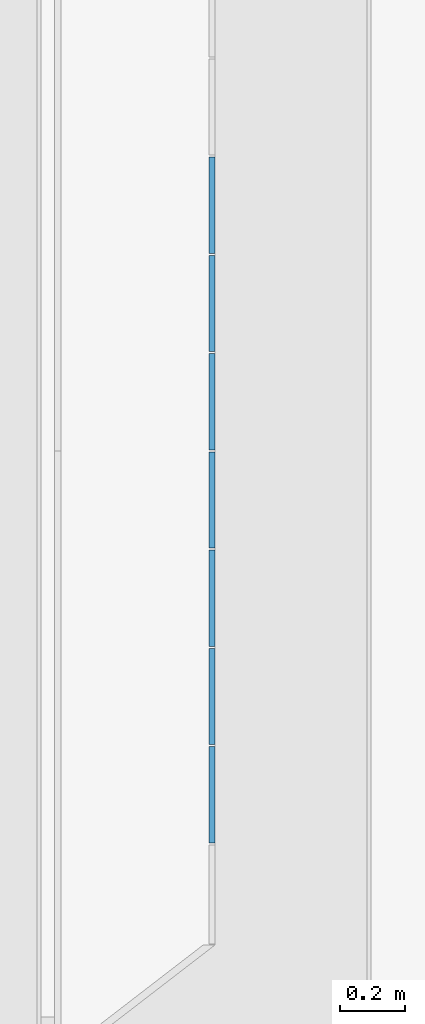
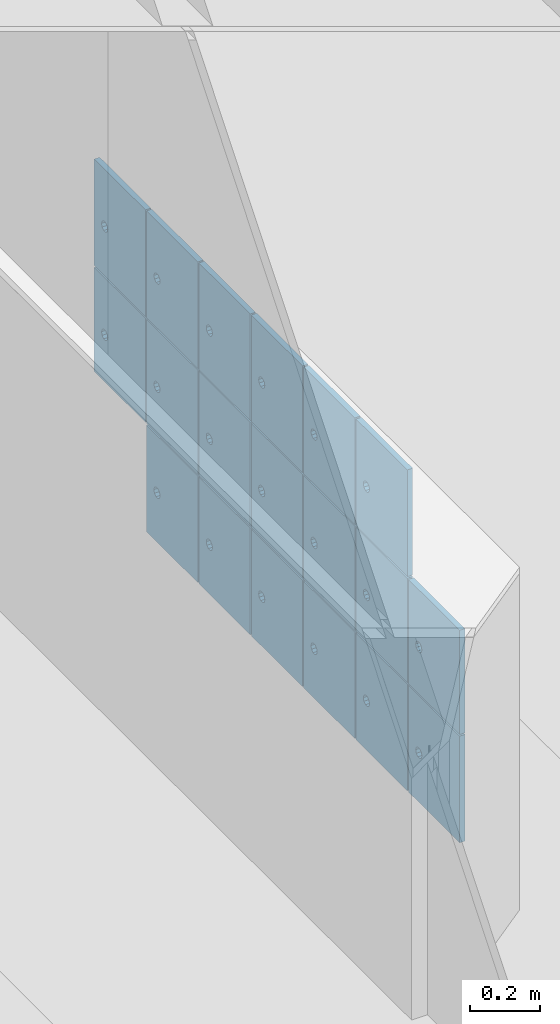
# One storey, part 132 of 347: 19 building element parts, 1 element without a shape of its own.
"""IFC2X3 building model written with IfcOpenShell, lengths in millimetres."""

import ifcopenshell
import ifcopenshell.guid

model = None  # the IFC model being written
_history = None  # IfcOwnerHistory: only IFC2X3 demands one
_inside = {}  # id of a spatial element -> (the spatial element, [elements in it])
_under = {}  # id of a project, library or spatial element -> (it, [spatial elements below it])
_declared = {}  # id of a project -> (the project, [libraries it declares])
_typed = {}  # id of a type object -> (the type object, [elements of that type])
_made_of = {}  # id of a material, layer set ... -> (it, [elements and type objects made of it])


def new_model(schema):
    """Start an empty IFC model of exactly this schema.

    Asked for "IFC4X3", IfcOpenShell would pick the latest addendum, in which some entities
    have other attributes; the version numbers below select the first issue.
    IFC2X3 requires an IfcOwnerHistory on every rooted entity: one is made here for all.
    """
    global model, _history
    if schema == "IFC4X3":
        model = ifcopenshell.file(schema_version=(4, 3, 0, 0))
    else:
        model = ifcopenshell.file(schema=schema)
    _inside.clear()
    _under.clear()
    _declared.clear()
    _typed.clear()
    _made_of.clear()
    _history = None
    if model.schema == "IFC2X3":
        org = make("IfcOrganization", Name="unknown")
        user = make(
            "IfcPersonAndOrganization",
            ThePerson=make("IfcPerson", FamilyName="unknown"),
            TheOrganization=org,
        )
        app = make(
            "IfcApplication",
            ApplicationDeveloper=org,
            Version="unknown",
            ApplicationFullName="unknown",
            ApplicationIdentifier="unknown",
        )
        _history = make(
            "IfcOwnerHistory",
            OwningUser=user,
            OwningApplication=app,
            ChangeAction="ADDED",
            CreationDate=0,
        )
    return model


def make(cls, **values):
    """One entity of the class cls with the attributes given. An attribute that is None is left unset."""
    return model.create_entity(
        cls, **{name: value for name, value in values.items() if value is not None}
    )


def entity(cls, *values):
    """Any entity or typed value of the class cls, its attributes in the order of the schema. None: left unset."""
    e = model.create_entity(cls)
    for i, value in enumerate(values):
        if value is not None:
            e[i] = value
    return e


def rooted(cls, **values):
    """An entity with a GlobalId (a new one), such as an element, a storey or a relation."""
    return make(cls, GlobalId=ifcopenshell.guid.new(), OwnerHistory=_history, **values)


def si_unit(unit_type, name, prefix=None):
    """IfcSIUnit, for example si_unit("LENGTHUNIT", "METRE", prefix="MILLI")."""
    return make("IfcSIUnit", UnitType=unit_type, Prefix=prefix, Name=name)


def converted_unit(unit_type, name, factor, base, dimensions=None, offset=None):
    """IfcConversionBasedUnit, such as the inch: factor (a typed value) times the base unit."""
    return make(
        "IfcConversionBasedUnit"
        if offset is None
        else "IfcConversionBasedUnitWithOffset",
        ConversionOffset=offset,
        Dimensions=None
        if dimensions is None
        else entity("IfcDimensionalExponents", *dimensions),
        UnitType=unit_type,
        Name=name,
        ConversionFactor=make(
            "IfcMeasureWithUnit", ValueComponent=factor, UnitComponent=base
        ),
    )


def derived_unit(unit_type, elements):
    """IfcDerivedUnit: a product of units, each with its exponent."""
    return make(
        "IfcDerivedUnit",
        Elements=[
            make("IfcDerivedUnitElement", Unit=unit, Exponent=power)
            for unit, power in elements
        ],
        UnitType=unit_type,
    )


def money_unit(currency):
    """IfcMonetaryUnit."""
    return make("IfcMonetaryUnit", Currency=currency)


def assignment(units):
    """IfcUnitAssignment: the units of a project."""
    return None if units is None else make("IfcUnitAssignment", Units=units)


def point(xyz):
    """IfcCartesianPoint."""
    return None if xyz is None else make("IfcCartesianPoint", Coordinates=xyz)


def direction(xyz):
    """IfcDirection."""
    return None if xyz is None else make("IfcDirection", DirectionRatios=xyz)


def frame(location, z_axis=None, x_axis=None):
    """IfcAxis2Placement3D, a coordinate frame: its origin and axes. An axis left out is left unset."""
    return make(
        "IfcAxis2Placement3D",
        Location=point(location),
        Axis=direction(z_axis),
        RefDirection=direction(x_axis),
    )


def origin_with_axes():
    """The frame at (0, 0, 0) with the z axis (0, 0, 1) and the x axis (1, 0, 0) written out."""
    return frame((0.0, 0.0, 0.0), z_axis=(0.0, 0.0, 1.0), x_axis=(1.0, 0.0, 0.0))


def place(relative_to, where):
    """IfcLocalPlacement: puts the frame where relative to a parent placement (None: the world)."""
    return make(
        "IfcLocalPlacement", PlacementRelTo=relative_to, RelativePlacement=where
    )


def context(
    kind, dimensions, precision=None, world=None, true_north=None, identifier=None
):
    """IfcGeometricRepresentationContext, for example the 3D "Model" context."""
    return make(
        "IfcGeometricRepresentationContext",
        ContextIdentifier=identifier,
        ContextType=kind,
        CoordinateSpaceDimension=dimensions,
        Precision=precision,
        WorldCoordinateSystem=world,
        TrueNorth=true_north,
    )


def subcontext(parent, identifier, kind, view, scale=None):
    """IfcGeometricRepresentationSubContext, for example "Body" below "Model"."""
    return make(
        "IfcGeometricRepresentationSubContext",
        ContextIdentifier=identifier,
        ContextType=kind,
        ParentContext=parent,
        TargetScale=scale,
        TargetView=view,
    )


def project(units=None, contexts=None):
    """IfcProject with its units and contexts."""
    return rooted(
        "IfcProject",
        Name="project",
        RepresentationContexts=contexts,
        UnitsInContext=assignment(units),
    )


def spatial(cls, under=None, at=None, **own):
    """A site, building, storey or space (cls), placed at a placement, below another one or the project."""
    s = rooted(cls, ObjectPlacement=at, **own)
    if under is not None:
        _under.setdefault(under.id(), (under, []))[1].append(s)
    return s


def faces_of(points, faces, orient=None, outer=None):
    """IfcFace entities. A face is a list of loops; a loop is a list of indices into points, from 0.

    orient and outer hold one flag for each loop. By default every Orientation is true, the
    first loop of a face is its IfcFaceOuterBound and the others are IfcFaceBound.
    """
    made = []
    for i, loops in enumerate(faces):
        bounds = []
        for j, loop in enumerate(loops):
            is_outer = j == 0 if outer is None else outer[i][j]
            bounds.append(
                make(
                    "IfcFaceOuterBound" if is_outer else "IfcFaceBound",
                    Bound=make("IfcPolyLoop", Polygon=[points[k] for k in loop]),
                    Orientation=True if orient is None else orient[i][j],
                )
            )
        made.append(make("IfcFace", Bounds=bounds))
    return made


def faceted_brep(points, faces, orient=None, outer=None, voids=None):
    """IfcFacetedBrep: a solid bounded by flat faces; with voids (closed shells), ...WithVoids."""
    shared = [point(p) for p in points]
    hull = make("IfcClosedShell", CfsFaces=faces_of(shared, faces, orient, outer))
    if voids is None:
        return make("IfcFacetedBrep", Outer=hull)
    return make(
        "IfcFacetedBrepWithVoids",
        Outer=hull,
        Voids=[
            make(cls, CfsFaces=faces_of(shared, fs, o, b)) for cls, fs, o, b in voids
        ],
    )


def shape(context_of_items, identifier, shape_type, items):
    """IfcShapeRepresentation: the items that make up one representation, for example the "Body"."""
    return make(
        "IfcShapeRepresentation",
        ContextOfItems=context_of_items,
        RepresentationIdentifier=identifier,
        RepresentationType=shape_type,
        Items=items,
    )


def material(Name=None, Category=None):
    """IfcMaterial."""
    return make("IfcMaterial", Name=Name, Category=Category)


def made_of(thing, what):
    """Note that an element or type object is made of a material, layer set ...; save() writes the relation."""
    if what is not None:
        _made_of.setdefault(what.id(), (what, []))[1].append(thing)
    return thing


def type_object(cls, material=None, **own):
    """A type object (cls), such as IfcWallType, which elements share."""
    return made_of(rooted(cls, **own), material)


def element(
    cls,
    number,
    at=None,
    inside=None,
    cuts=None,
    type_object=None,
    material=None,
    context=None,
    identifier="Body",
    shape_type=None,
    held_by="IfcProductDefinitionShape",
    body=None,
    shapes=None,
    **own,
):
    """One element of the class cls, such as IfcWall. Its Tag is "e" and its number.

    at: its placement. inside: the storey or other place that contains it. cuts: it is an
    opening in that element (IfcRelVoidsElement). A single representation is given by context,
    identifier, shape_type and body (its items); several are given by shapes. held_by: the class
    of the entity that holds the representations. save() writes the other relations.
    """
    e = rooted(cls, Tag="e%d" % number, ObjectPlacement=at, **own)
    if body is not None:
        shapes = [shape(context, identifier, shape_type, body)]
    if shapes is not None:
        e.Representation = make(held_by, Representations=shapes)
    if inside is not None:
        _inside.setdefault(inside.id(), (inside, []))[1].append(e)
    if cuts is not None:
        rooted(
            "IfcRelVoidsElement", RelatingBuildingElement=cuts, RelatedOpeningElement=e
        )
    if type_object is not None:
        _typed.setdefault(type_object.id(), (type_object, []))[1].append(e)
    return made_of(e, material)


def aggregate(whole, parts):
    """IfcRelAggregates: a whole, such as a stair, and the parts it consists of."""
    return rooted("IfcRelAggregates", RelatingObject=whole, RelatedObjects=parts)


def save(model, path):
    """Write the relations noted so far, then the file.

    IfcRelAggregates (storeys below a building ...), IfcRelContainedInSpatialStructure (elements
    in a storey), IfcRelDefinesByType, IfcRelAssociatesMaterial and IfcRelDeclares: one each for
    every whole, place, type object, material and project.
    """
    for whole, parts in _under.values():
        aggregate(whole, parts)
    for where, things in _inside.values():
        rooted(
            "IfcRelContainedInSpatialStructure",
            RelatedElements=things,
            RelatingStructure=where,
        )
    for kind, things in _typed.values():
        rooted("IfcRelDefinesByType", RelatedObjects=things, RelatingType=kind)
    for what, things in _made_of.values():
        rooted("IfcRelAssociatesMaterial", RelatedObjects=things, RelatingMaterial=what)
    for by, libraries in _declared.values():
        rooted("IfcRelDeclares", RelatingContext=by, RelatedDefinitions=libraries)
    model.write(path)


model = new_model("IFC2X3")

# Units and contexts
model_context = context("Model", 3, precision=0.01, world=origin_with_axes(), true_north=direction((0.0, 1.0)))
plan_context = context("Plan", 3, precision=0.01, world=origin_with_axes(), true_north=direction((0.0, 1.0)))
body_context = subcontext(model_context, "Body", "Model", "MODEL_VIEW")
ifc_project = project(units=[si_unit("LENGTHUNIT", "METRE", prefix="MILLI"), si_unit("AREAUNIT", "SQUARE_METRE"), si_unit("VOLUMEUNIT", "CUBIC_METRE"), converted_unit("PLANEANGLEUNIT", "DEGREE", entity("IfcPlaneAngleMeasure", 0.0174532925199), si_unit("PLANEANGLEUNIT", "RADIAN"), dimensions=[0, 0, 0, 0, 0, 0, 0]), money_unit("EUR"), converted_unit("TIMEUNIT", "Year", entity("IfcTimeMeasure", 31556926.0), si_unit("TIMEUNIT", "SECOND"), dimensions=[0, 0, 1, 0, 0, 0, 0]), si_unit("MASSUNIT", "GRAM", prefix="KILO"), si_unit("THERMODYNAMICTEMPERATUREUNIT", "DEGREE_CELSIUS"), si_unit("LUMINOUSINTENSITYUNIT", "LUMEN"), si_unit("ENERGYUNIT", "JOULE", prefix="MEGA"), derived_unit("THERMALCONDUCTANCEUNIT", [(si_unit("POWERUNIT", "WATT"), 1), (si_unit("LENGTHUNIT", "METRE"), -1), (si_unit("THERMODYNAMICTEMPERATUREUNIT", "KELVIN"), -1)]), derived_unit("SPECIFICHEATCAPACITYUNIT", [(si_unit("ENERGYUNIT", "JOULE"), 1), (si_unit("MASSUNIT", "GRAM", prefix="KILO"), -1), (si_unit("THERMODYNAMICTEMPERATUREUNIT", "KELVIN"), -1)]), derived_unit("MASSDENSITYUNIT", [(si_unit("MASSUNIT", "GRAM", prefix="KILO"), 1), (si_unit("VOLUMEUNIT", "CUBIC_METRE"), -1)])], contexts=[model_context, plan_context])

# Site, building, storey
site_placement = place(None, origin_with_axes())
site = spatial("IfcSite", under=ifc_project, at=site_placement, Name="Site", CompositionType="ELEMENT")
building_placement = place(site_placement, origin_with_axes())
building = spatial("IfcBuilding", under=site, at=building_placement, Name="Naam gebouw", CompositionType="ELEMENT")
storey_placement = place(building_placement, origin_with_axes())
storey = spatial("IfcBuildingStorey", under=building, at=storey_placement, Name="begane grond", CompositionType="ELEMENT", Elevation=0.0)

# Beam, building element parts
beam_type = type_object("IfcBeamType", Name="VI Garderobe 01 3012 x 1122", PredefinedType="BEAM")
beam_placement = place(storey_placement, frame((32618.0279766, 32105.5, 0.0), z_axis=(0.0, 0.0, 1.0), x_axis=(0.0, 1.0, 0.0)))
beam = element("IfcBeam", 1, at=beam_placement, inside=storey, type_object=beam_type, Name="28_Balk-x", ObjectType="BEAM")
ifc_material = material(Name="Hout - Lockers")
building_element_part_1_placement = place(beam_placement, origin_with_axes())
building_element_part_1 = element("IfcBuildingElementPart", 2, at=building_element_part_1_placement, material=ifc_material, Name="Hout - Lockers", context=body_context, shape_type="Brep", body=[
    faceted_brep([(-2403.0, 18.0, 1175.0), (-2403.0, 18.0, 802.0), (-2403.0, 0.0, 802.0), (-2403.0, 0.0, 1175.0), (-2109.0, 18.0, 1175.0), (-2109.0, 18.0, 802.0), (-2183.5623059, 18.0, 985.580134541), (-2187.0, 18.0, 975.0), (-2183.5623059, 18.0, 964.419865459), (-2174.5623059, 18.0, 957.880982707), (-2163.4376941, 18.0, 957.880982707), (-2154.4376941, 18.0, 964.419865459), (-2151.0, 18.0, 975.0), (-2154.4376941, 18.0, 985.580134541), (-2163.4376941, 18.0, 992.119017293), (-2174.5623059, 18.0, 992.119017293), (-2109.0, 0.0, 802.0), (-2109.0, 0.0, 1175.0), (-2183.5623059, 0.0, 985.580134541), (-2174.5623059, 0.0, 992.119017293), (-2163.4376941, 0.0, 992.119017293), (-2154.4376941, 0.0, 985.580134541), (-2151.0, 0.0, 975.0), (-2154.4376941, 0.0, 964.419865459), (-2163.4376941, 0.0, 957.880982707), (-2174.5623059, 0.0, 957.880982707), (-2183.5623059, 0.0, 964.419865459), (-2187.0, 0.0, 975.0)], [[[0, 1, 2, 3]], [[0, 4, 5, 1], [6, 7, 8, 9, 10, 11, 12, 13, 14, 15]], [[1, 5, 16, 2]], [[3, 2, 16, 17], [18, 19, 20, 21, 22, 23, 24, 25, 26, 27]], [[4, 0, 3, 17]], [[5, 4, 17, 16]], [[7, 6, 18, 27]], [[8, 7, 27, 26]], [[9, 8, 26, 25]], [[10, 9, 25, 24]], [[11, 10, 24, 23]], [[12, 11, 23, 22]], [[13, 12, 22, 21]], [[14, 13, 21, 20]], [[15, 14, 20, 19]], [[6, 15, 19, 18]]]),
])
building_element_part_2_placement = place(beam_placement, origin_with_axes())
building_element_part_2 = element("IfcBuildingElementPart", 3, at=building_element_part_2_placement, material=ifc_material, Name="Hout - Lockers", context=body_context, shape_type="Brep", body=[
    faceted_brep([(-2403.0, 18.0, 796.0), (-2403.0, 18.0, 432.0), (-2403.0, 0.0, 432.0), (-2403.0, 0.0, 796.0), (-2109.0, 18.0, 796.0), (-2109.0, 18.0, 432.0), (-2183.5623059, 18.0, 606.580134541), (-2187.0, 18.0, 596.0), (-2183.5623059, 18.0, 585.419865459), (-2174.5623059, 18.0, 578.880982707), (-2163.4376941, 18.0, 578.880982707), (-2154.4376941, 18.0, 585.419865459), (-2151.0, 18.0, 596.0), (-2154.4376941, 18.0, 606.580134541), (-2163.4376941, 18.0, 613.119017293), (-2174.5623059, 18.0, 613.119017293), (-2109.0, 0.0, 432.0), (-2109.0, 0.0, 796.0), (-2183.5623059, 0.0, 606.580134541), (-2174.5623059, 0.0, 613.119017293), (-2163.4376941, 0.0, 613.119017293), (-2154.4376941, 0.0, 606.580134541), (-2151.0, 0.0, 596.0), (-2154.4376941, 0.0, 585.419865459), (-2163.4376941, 0.0, 578.880982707), (-2174.5623059, 0.0, 578.880982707), (-2183.5623059, 0.0, 585.419865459), (-2187.0, 0.0, 596.0)], [[[0, 1, 2, 3]], [[0, 4, 5, 1], [6, 7, 8, 9, 10, 11, 12, 13, 14, 15]], [[1, 5, 16, 2]], [[3, 2, 16, 17], [18, 19, 20, 21, 22, 23, 24, 25, 26, 27]], [[4, 0, 3, 17]], [[5, 4, 17, 16]], [[7, 6, 18, 27]], [[8, 7, 27, 26]], [[9, 8, 26, 25]], [[10, 9, 25, 24]], [[11, 10, 24, 23]], [[12, 11, 23, 22]], [[13, 12, 22, 21]], [[14, 13, 21, 20]], [[15, 14, 20, 19]], [[6, 15, 19, 18]]]),
])
building_element_part_3_placement = place(beam_placement, origin_with_axes())
building_element_part_3 = element("IfcBuildingElementPart", 4, at=building_element_part_3_placement, material=ifc_material, Name="Hout - Lockers", context=body_context, shape_type="Brep", body=[
    faceted_brep([(-2403.0, 18.0, 426.0), (-2403.0, 18.0, 53.0), (-2403.0, 0.0, 53.0), (-2403.0, 0.0, 426.0), (-2109.0, 18.0, 426.0), (-2109.0, 18.0, 53.0), (-2183.5623059, 18.0, 236.580134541), (-2187.0, 18.0, 226.0), (-2183.5623059, 18.0, 215.419865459), (-2174.5623059, 18.0, 208.880982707), (-2163.4376941, 18.0, 208.880982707), (-2154.4376941, 18.0, 215.419865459), (-2151.0, 18.0, 226.0), (-2154.4376941, 18.0, 236.580134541), (-2163.4376941, 18.0, 243.119017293), (-2174.5623059, 18.0, 243.119017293), (-2109.0, 0.0, 53.0), (-2109.0, 0.0, 426.0), (-2183.5623059, 0.0, 236.580134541), (-2174.5623059, 0.0, 243.119017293), (-2163.4376941, 0.0, 243.119017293), (-2154.4376941, 0.0, 236.580134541), (-2151.0, 0.0, 226.0), (-2154.4376941, 0.0, 215.419865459), (-2163.4376941, 0.0, 208.880982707), (-2174.5623059, 0.0, 208.880982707), (-2183.5623059, 0.0, 215.419865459), (-2187.0, 0.0, 226.0)], [[[0, 1, 2, 3]], [[0, 4, 5, 1], [6, 7, 8, 9, 10, 11, 12, 13, 14, 15]], [[1, 5, 16, 2]], [[3, 2, 16, 17], [18, 19, 20, 21, 22, 23, 24, 25, 26, 27]], [[4, 0, 3, 17]], [[5, 4, 17, 16]], [[7, 6, 18, 27]], [[8, 7, 27, 26]], [[9, 8, 26, 25]], [[10, 9, 25, 24]], [[11, 10, 24, 23]], [[12, 11, 23, 22]], [[13, 12, 22, 21]], [[14, 13, 21, 20]], [[15, 14, 20, 19]], [[6, 15, 19, 18]]]),
])
building_element_part_4_placement = place(beam_placement, origin_with_axes())
building_element_part_4 = element("IfcBuildingElementPart", 5, at=building_element_part_4_placement, material=ifc_material, Name="Hout - Lockers", context=body_context, shape_type="Brep", body=[
    faceted_brep([(-1503.0, 18.0, 1175.0), (-1503.0, 18.0, 802.0), (-1503.0, 0.0, 802.0), (-1503.0, 0.0, 1175.0), (-1209.0, 18.0, 1175.0), (-1209.0, 18.0, 802.0), (-1283.5623059, 18.0, 985.580134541), (-1287.0, 18.0, 975.0), (-1283.5623059, 18.0, 964.419865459), (-1274.5623059, 18.0, 957.880982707), (-1263.4376941, 18.0, 957.880982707), (-1254.4376941, 18.0, 964.419865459), (-1251.0, 18.0, 975.0), (-1254.4376941, 18.0, 985.580134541), (-1263.4376941, 18.0, 992.119017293), (-1274.5623059, 18.0, 992.119017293), (-1209.0, 0.0, 802.0), (-1209.0, 0.0, 1175.0), (-1283.5623059, 0.0, 985.580134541), (-1274.5623059, 0.0, 992.119017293), (-1263.4376941, 0.0, 992.119017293), (-1254.4376941, 0.0, 985.580134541), (-1251.0, 0.0, 975.0), (-1254.4376941, 0.0, 964.419865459), (-1263.4376941, 0.0, 957.880982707), (-1274.5623059, 0.0, 957.880982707), (-1283.5623059, 0.0, 964.419865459), (-1287.0, 0.0, 975.0)], [[[0, 1, 2, 3]], [[0, 4, 5, 1], [6, 7, 8, 9, 10, 11, 12, 13, 14, 15]], [[1, 5, 16, 2]], [[3, 2, 16, 17], [18, 19, 20, 21, 22, 23, 24, 25, 26, 27]], [[4, 0, 3, 17]], [[5, 4, 17, 16]], [[7, 6, 18, 27]], [[8, 7, 27, 26]], [[9, 8, 26, 25]], [[10, 9, 25, 24]], [[11, 10, 24, 23]], [[12, 11, 23, 22]], [[13, 12, 22, 21]], [[14, 13, 21, 20]], [[15, 14, 20, 19]], [[6, 15, 19, 18]]]),
])
building_element_part_5_placement = place(beam_placement, origin_with_axes())
building_element_part_5 = element("IfcBuildingElementPart", 6, at=building_element_part_5_placement, material=ifc_material, Name="Hout - Lockers", context=body_context, shape_type="Brep", body=[
    faceted_brep([(-1503.0, 18.0, 796.0), (-1503.0, 18.0, 432.0), (-1503.0, 0.0, 432.0), (-1503.0, 0.0, 796.0), (-1209.0, 18.0, 796.0), (-1209.0, 18.0, 432.0), (-1283.5623059, 18.0, 606.580134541), (-1287.0, 18.0, 596.0), (-1283.5623059, 18.0, 585.419865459), (-1274.5623059, 18.0, 578.880982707), (-1263.4376941, 18.0, 578.880982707), (-1254.4376941, 18.0, 585.419865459), (-1251.0, 18.0, 596.0), (-1254.4376941, 18.0, 606.580134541), (-1263.4376941, 18.0, 613.119017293), (-1274.5623059, 18.0, 613.119017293), (-1209.0, 0.0, 432.0), (-1209.0, 0.0, 796.0), (-1283.5623059, 0.0, 606.580134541), (-1274.5623059, 0.0, 613.119017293), (-1263.4376941, 0.0, 613.119017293), (-1254.4376941, 0.0, 606.580134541), (-1251.0, 0.0, 596.0), (-1254.4376941, 0.0, 585.419865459), (-1263.4376941, 0.0, 578.880982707), (-1274.5623059, 0.0, 578.880982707), (-1283.5623059, 0.0, 585.419865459), (-1287.0, 0.0, 596.0)], [[[0, 1, 2, 3]], [[0, 4, 5, 1], [6, 7, 8, 9, 10, 11, 12, 13, 14, 15]], [[1, 5, 16, 2]], [[3, 2, 16, 17], [18, 19, 20, 21, 22, 23, 24, 25, 26, 27]], [[4, 0, 3, 17]], [[5, 4, 17, 16]], [[7, 6, 18, 27]], [[8, 7, 27, 26]], [[9, 8, 26, 25]], [[10, 9, 25, 24]], [[11, 10, 24, 23]], [[12, 11, 23, 22]], [[13, 12, 22, 21]], [[14, 13, 21, 20]], [[15, 14, 20, 19]], [[6, 15, 19, 18]]]),
])
building_element_part_6_placement = place(beam_placement, origin_with_axes())
building_element_part_6 = element("IfcBuildingElementPart", 7, at=building_element_part_6_placement, material=ifc_material, Name="Hout - Lockers", context=body_context, shape_type="Brep", body=[
    faceted_brep([(-1503.0, 18.0, 426.0), (-1503.0, 18.0, 53.0), (-1503.0, 0.0, 53.0), (-1503.0, 0.0, 426.0), (-1209.0, 18.0, 426.0), (-1209.0, 18.0, 53.0), (-1283.5623059, 18.0, 236.580134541), (-1287.0, 18.0, 226.0), (-1283.5623059, 18.0, 215.419865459), (-1274.5623059, 18.0, 208.880982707), (-1263.4376941, 18.0, 208.880982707), (-1254.4376941, 18.0, 215.419865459), (-1251.0, 18.0, 226.0), (-1254.4376941, 18.0, 236.580134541), (-1263.4376941, 18.0, 243.119017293), (-1274.5623059, 18.0, 243.119017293), (-1209.0, 0.0, 53.0), (-1209.0, 0.0, 426.0), (-1283.5623059, 0.0, 236.580134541), (-1274.5623059, 0.0, 243.119017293), (-1263.4376941, 0.0, 243.119017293), (-1254.4376941, 0.0, 236.580134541), (-1251.0, 0.0, 226.0), (-1254.4376941, 0.0, 215.419865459), (-1263.4376941, 0.0, 208.880982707), (-1274.5623059, 0.0, 208.880982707), (-1283.5623059, 0.0, 215.419865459), (-1287.0, 0.0, 226.0)], [[[0, 1, 2, 3]], [[0, 4, 5, 1], [6, 7, 8, 9, 10, 11, 12, 13, 14, 15]], [[1, 5, 16, 2]], [[3, 2, 16, 17], [18, 19, 20, 21, 22, 23, 24, 25, 26, 27]], [[4, 0, 3, 17]], [[5, 4, 17, 16]], [[7, 6, 18, 27]], [[8, 7, 27, 26]], [[9, 8, 26, 25]], [[10, 9, 25, 24]], [[11, 10, 24, 23]], [[12, 11, 23, 22]], [[13, 12, 22, 21]], [[14, 13, 21, 20]], [[15, 14, 20, 19]], [[6, 15, 19, 18]]]),
])
building_element_part_7_placement = place(beam_placement, origin_with_axes())
building_element_part_7 = element("IfcBuildingElementPart", 8, at=building_element_part_7_placement, material=ifc_material, Name="Hout - Lockers", context=body_context, shape_type="Brep", body=[
    faceted_brep([(-1203.0, 18.0, 1175.0), (-1203.0, 18.0, 802.0), (-1203.0, 0.0, 802.0), (-1203.0, 0.0, 1175.0), (-909.0, 18.0, 1175.0), (-909.0, 18.0, 802.0), (-983.562305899, 18.0, 985.580134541), (-987.0, 18.0, 975.0), (-983.562305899, 18.0, 964.419865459), (-974.562305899, 18.0, 957.880982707), (-963.437694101, 18.0, 957.880982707), (-954.437694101, 18.0, 964.419865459), (-951.0, 18.0, 975.0), (-954.437694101, 18.0, 985.580134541), (-963.437694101, 18.0, 992.119017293), (-974.562305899, 18.0, 992.119017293), (-909.0, 0.0, 802.0), (-909.0, 0.0, 1175.0), (-983.562305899, 0.0, 985.580134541), (-974.562305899, 0.0, 992.119017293), (-963.437694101, 0.0, 992.119017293), (-954.437694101, 0.0, 985.580134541), (-951.0, 0.0, 975.0), (-954.437694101, 0.0, 964.419865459), (-963.437694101, 0.0, 957.880982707), (-974.562305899, 0.0, 957.880982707), (-983.562305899, 0.0, 964.419865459), (-987.0, 0.0, 975.0)], [[[0, 1, 2, 3]], [[0, 4, 5, 1], [6, 7, 8, 9, 10, 11, 12, 13, 14, 15]], [[1, 5, 16, 2]], [[3, 2, 16, 17], [18, 19, 20, 21, 22, 23, 24, 25, 26, 27]], [[4, 0, 3, 17]], [[5, 4, 17, 16]], [[7, 6, 18, 27]], [[8, 7, 27, 26]], [[9, 8, 26, 25]], [[10, 9, 25, 24]], [[11, 10, 24, 23]], [[12, 11, 23, 22]], [[13, 12, 22, 21]], [[14, 13, 21, 20]], [[15, 14, 20, 19]], [[6, 15, 19, 18]]]),
])
building_element_part_8_placement = place(beam_placement, origin_with_axes())
building_element_part_8 = element("IfcBuildingElementPart", 9, at=building_element_part_8_placement, material=ifc_material, Name="Hout - Lockers", context=body_context, shape_type="Brep", body=[
    faceted_brep([(-1203.0, 18.0, 796.0), (-1203.0, 18.0, 432.0), (-1203.0, 0.0, 432.0), (-1203.0, 0.0, 796.0), (-909.0, 18.0, 796.0), (-909.0, 18.0, 432.0), (-983.562305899, 18.0, 606.580134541), (-987.0, 18.0, 596.0), (-983.562305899, 18.0, 585.419865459), (-974.562305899, 18.0, 578.880982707), (-963.437694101, 18.0, 578.880982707), (-954.437694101, 18.0, 585.419865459), (-951.0, 18.0, 596.0), (-954.437694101, 18.0, 606.580134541), (-963.437694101, 18.0, 613.119017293), (-974.562305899, 18.0, 613.119017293), (-909.0, 0.0, 432.0), (-909.0, 0.0, 796.0), (-983.562305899, 0.0, 606.580134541), (-974.562305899, 0.0, 613.119017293), (-963.437694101, 0.0, 613.119017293), (-954.437694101, 0.0, 606.580134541), (-951.0, 0.0, 596.0), (-954.437694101, 0.0, 585.419865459), (-963.437694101, 0.0, 578.880982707), (-974.562305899, 0.0, 578.880982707), (-983.562305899, 0.0, 585.419865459), (-987.0, 0.0, 596.0)], [[[0, 1, 2, 3]], [[0, 4, 5, 1], [6, 7, 8, 9, 10, 11, 12, 13, 14, 15]], [[1, 5, 16, 2]], [[3, 2, 16, 17], [18, 19, 20, 21, 22, 23, 24, 25, 26, 27]], [[4, 0, 3, 17]], [[5, 4, 17, 16]], [[7, 6, 18, 27]], [[8, 7, 27, 26]], [[9, 8, 26, 25]], [[10, 9, 25, 24]], [[11, 10, 24, 23]], [[12, 11, 23, 22]], [[13, 12, 22, 21]], [[14, 13, 21, 20]], [[15, 14, 20, 19]], [[6, 15, 19, 18]]]),
])
building_element_part_9_placement = place(beam_placement, origin_with_axes())
building_element_part_9 = element("IfcBuildingElementPart", 10, at=building_element_part_9_placement, material=ifc_material, Name="Hout - Lockers", context=body_context, shape_type="Brep", body=[
    faceted_brep([(-1203.0, 18.0, 426.0), (-1203.0, 18.0, 53.0), (-1203.0, 0.0, 53.0), (-1203.0, 0.0, 426.0), (-909.0, 18.0, 426.0), (-909.0, 18.0, 53.0), (-983.562305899, 18.0, 236.580134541), (-987.0, 18.0, 226.0), (-983.562305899, 18.0, 215.419865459), (-974.562305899, 18.0, 208.880982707), (-963.437694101, 18.0, 208.880982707), (-954.437694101, 18.0, 215.419865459), (-951.0, 18.0, 226.0), (-954.437694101, 18.0, 236.580134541), (-963.437694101, 18.0, 243.119017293), (-974.562305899, 18.0, 243.119017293), (-909.0, 0.0, 53.0), (-909.0, 0.0, 426.0), (-983.562305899, 0.0, 236.580134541), (-974.562305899, 0.0, 243.119017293), (-963.437694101, 0.0, 243.119017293), (-954.437694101, 0.0, 236.580134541), (-951.0, 0.0, 226.0), (-954.437694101, 0.0, 215.419865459), (-963.437694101, 0.0, 208.880982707), (-974.562305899, 0.0, 208.880982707), (-983.562305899, 0.0, 215.419865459), (-987.0, 0.0, 226.0)], [[[0, 1, 2, 3]], [[0, 4, 5, 1], [6, 7, 8, 9, 10, 11, 12, 13, 14, 15]], [[1, 5, 16, 2]], [[3, 2, 16, 17], [18, 19, 20, 21, 22, 23, 24, 25, 26, 27]], [[4, 0, 3, 17]], [[5, 4, 17, 16]], [[7, 6, 18, 27]], [[8, 7, 27, 26]], [[9, 8, 26, 25]], [[10, 9, 25, 24]], [[11, 10, 24, 23]], [[12, 11, 23, 22]], [[13, 12, 22, 21]], [[14, 13, 21, 20]], [[15, 14, 20, 19]], [[6, 15, 19, 18]]]),
])
building_element_part_10_placement = place(beam_placement, origin_with_axes())
building_element_part_10 = element("IfcBuildingElementPart", 11, at=building_element_part_10_placement, material=ifc_material, Name="Hout - Lockers", context=body_context, shape_type="Brep", body=[
    faceted_brep([(-903.0, 18.0, 1175.0), (-903.0, 18.0, 802.0), (-903.0, 0.0, 802.0), (-903.0, 0.0, 1175.0), (-609.0, 18.0, 1175.0), (-609.0, 18.0, 802.0), (-683.562305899, 18.0, 985.580134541), (-687.0, 18.0, 975.0), (-683.562305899, 18.0, 964.419865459), (-674.562305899, 18.0, 957.880982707), (-663.437694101, 18.0, 957.880982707), (-654.437694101, 18.0, 964.419865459), (-651.0, 18.0, 975.0), (-654.437694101, 18.0, 985.580134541), (-663.437694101, 18.0, 992.119017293), (-674.562305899, 18.0, 992.119017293), (-609.0, 0.0, 802.0), (-609.0, 0.0, 1175.0), (-683.562305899, 0.0, 985.580134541), (-674.562305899, 0.0, 992.119017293), (-663.437694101, 0.0, 992.119017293), (-654.437694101, 0.0, 985.580134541), (-651.0, 0.0, 975.0), (-654.437694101, 0.0, 964.419865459), (-663.437694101, 0.0, 957.880982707), (-674.562305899, 0.0, 957.880982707), (-683.562305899, 0.0, 964.419865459), (-687.0, 0.0, 975.0)], [[[0, 1, 2, 3]], [[0, 4, 5, 1], [6, 7, 8, 9, 10, 11, 12, 13, 14, 15]], [[1, 5, 16, 2]], [[3, 2, 16, 17], [18, 19, 20, 21, 22, 23, 24, 25, 26, 27]], [[4, 0, 3, 17]], [[5, 4, 17, 16]], [[7, 6, 18, 27]], [[8, 7, 27, 26]], [[9, 8, 26, 25]], [[10, 9, 25, 24]], [[11, 10, 24, 23]], [[12, 11, 23, 22]], [[13, 12, 22, 21]], [[14, 13, 21, 20]], [[15, 14, 20, 19]], [[6, 15, 19, 18]]]),
])
building_element_part_11_placement = place(beam_placement, origin_with_axes())
building_element_part_11 = element("IfcBuildingElementPart", 12, at=building_element_part_11_placement, material=ifc_material, Name="Hout - Lockers", context=body_context, shape_type="Brep", body=[
    faceted_brep([(-903.0, 18.0, 796.0), (-903.0, 18.0, 432.0), (-903.0, 0.0, 432.0), (-903.0, 0.0, 796.0), (-609.0, 18.0, 796.0), (-609.0, 18.0, 432.0), (-683.562305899, 18.0, 606.580134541), (-687.0, 18.0, 596.0), (-683.562305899, 18.0, 585.419865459), (-674.562305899, 18.0, 578.880982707), (-663.437694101, 18.0, 578.880982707), (-654.437694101, 18.0, 585.419865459), (-651.0, 18.0, 596.0), (-654.437694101, 18.0, 606.580134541), (-663.437694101, 18.0, 613.119017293), (-674.562305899, 18.0, 613.119017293), (-609.0, 0.0, 432.0), (-609.0, 0.0, 796.0), (-683.562305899, 0.0, 606.580134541), (-674.562305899, 0.0, 613.119017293), (-663.437694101, 0.0, 613.119017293), (-654.437694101, 0.0, 606.580134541), (-651.0, 0.0, 596.0), (-654.437694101, 0.0, 585.419865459), (-663.437694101, 0.0, 578.880982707), (-674.562305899, 0.0, 578.880982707), (-683.562305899, 0.0, 585.419865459), (-687.0, 0.0, 596.0)], [[[0, 1, 2, 3]], [[0, 4, 5, 1], [6, 7, 8, 9, 10, 11, 12, 13, 14, 15]], [[1, 5, 16, 2]], [[3, 2, 16, 17], [18, 19, 20, 21, 22, 23, 24, 25, 26, 27]], [[4, 0, 3, 17]], [[5, 4, 17, 16]], [[7, 6, 18, 27]], [[8, 7, 27, 26]], [[9, 8, 26, 25]], [[10, 9, 25, 24]], [[11, 10, 24, 23]], [[12, 11, 23, 22]], [[13, 12, 22, 21]], [[14, 13, 21, 20]], [[15, 14, 20, 19]], [[6, 15, 19, 18]]]),
])
building_element_part_12_placement = place(beam_placement, origin_with_axes())
building_element_part_12 = element("IfcBuildingElementPart", 13, at=building_element_part_12_placement, material=ifc_material, Name="Hout - Lockers", context=body_context, shape_type="Brep", body=[
    faceted_brep([(-2103.0, 18.0, 1175.0), (-2103.0, 18.0, 802.0), (-2103.0, 0.0, 802.0), (-2103.0, 0.0, 1175.0), (-1809.0, 18.0, 1175.0), (-1809.0, 18.0, 802.0), (-1883.5623059, 18.0, 985.580134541), (-1887.0, 18.0, 975.0), (-1883.5623059, 18.0, 964.419865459), (-1874.5623059, 18.0, 957.880982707), (-1863.4376941, 18.0, 957.880982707), (-1854.4376941, 18.0, 964.419865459), (-1851.0, 18.0, 975.0), (-1854.4376941, 18.0, 985.580134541), (-1863.4376941, 18.0, 992.119017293), (-1874.5623059, 18.0, 992.119017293), (-1809.0, 0.0, 802.0), (-1809.0, 0.0, 1175.0), (-1883.5623059, 0.0, 985.580134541), (-1874.5623059, 0.0, 992.119017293), (-1863.4376941, 0.0, 992.119017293), (-1854.4376941, 0.0, 985.580134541), (-1851.0, 0.0, 975.0), (-1854.4376941, 0.0, 964.419865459), (-1863.4376941, 0.0, 957.880982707), (-1874.5623059, 0.0, 957.880982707), (-1883.5623059, 0.0, 964.419865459), (-1887.0, 0.0, 975.0)], [[[0, 1, 2, 3]], [[0, 4, 5, 1], [6, 7, 8, 9, 10, 11, 12, 13, 14, 15]], [[1, 5, 16, 2]], [[3, 2, 16, 17], [18, 19, 20, 21, 22, 23, 24, 25, 26, 27]], [[4, 0, 3, 17]], [[5, 4, 17, 16]], [[7, 6, 18, 27]], [[8, 7, 27, 26]], [[9, 8, 26, 25]], [[10, 9, 25, 24]], [[11, 10, 24, 23]], [[12, 11, 23, 22]], [[13, 12, 22, 21]], [[14, 13, 21, 20]], [[15, 14, 20, 19]], [[6, 15, 19, 18]]]),
])
building_element_part_13_placement = place(beam_placement, origin_with_axes())
building_element_part_13 = element("IfcBuildingElementPart", 14, at=building_element_part_13_placement, material=ifc_material, Name="Hout - Lockers", context=body_context, shape_type="Brep", body=[
    faceted_brep([(-2103.0, 18.0, 796.0), (-2103.0, 18.0, 432.0), (-2103.0, 0.0, 432.0), (-2103.0, 0.0, 796.0), (-1809.0, 18.0, 796.0), (-1809.0, 18.0, 432.0), (-1883.5623059, 18.0, 606.580134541), (-1887.0, 18.0, 596.0), (-1883.5623059, 18.0, 585.419865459), (-1874.5623059, 18.0, 578.880982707), (-1863.4376941, 18.0, 578.880982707), (-1854.4376941, 18.0, 585.419865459), (-1851.0, 18.0, 596.0), (-1854.4376941, 18.0, 606.580134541), (-1863.4376941, 18.0, 613.119017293), (-1874.5623059, 18.0, 613.119017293), (-1809.0, 0.0, 432.0), (-1809.0, 0.0, 796.0), (-1883.5623059, 0.0, 606.580134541), (-1874.5623059, 0.0, 613.119017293), (-1863.4376941, 0.0, 613.119017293), (-1854.4376941, 0.0, 606.580134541), (-1851.0, 0.0, 596.0), (-1854.4376941, 0.0, 585.419865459), (-1863.4376941, 0.0, 578.880982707), (-1874.5623059, 0.0, 578.880982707), (-1883.5623059, 0.0, 585.419865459), (-1887.0, 0.0, 596.0)], [[[0, 1, 2, 3]], [[0, 4, 5, 1], [6, 7, 8, 9, 10, 11, 12, 13, 14, 15]], [[1, 5, 16, 2]], [[3, 2, 16, 17], [18, 19, 20, 21, 22, 23, 24, 25, 26, 27]], [[4, 0, 3, 17]], [[5, 4, 17, 16]], [[7, 6, 18, 27]], [[8, 7, 27, 26]], [[9, 8, 26, 25]], [[10, 9, 25, 24]], [[11, 10, 24, 23]], [[12, 11, 23, 22]], [[13, 12, 22, 21]], [[14, 13, 21, 20]], [[15, 14, 20, 19]], [[6, 15, 19, 18]]]),
])
building_element_part_14_placement = place(beam_placement, origin_with_axes())
building_element_part_14 = element("IfcBuildingElementPart", 15, at=building_element_part_14_placement, material=ifc_material, Name="Hout - Lockers", context=body_context, shape_type="Brep", body=[
    faceted_brep([(-2103.0, 18.0, 426.0), (-2103.0, 18.0, 53.0), (-2103.0, 0.0, 53.0), (-2103.0, 0.0, 426.0), (-1809.0, 18.0, 426.0), (-1809.0, 18.0, 53.0), (-1883.5623059, 18.0, 236.580134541), (-1887.0, 18.0, 226.0), (-1883.5623059, 18.0, 215.419865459), (-1874.5623059, 18.0, 208.880982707), (-1863.4376941, 18.0, 208.880982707), (-1854.4376941, 18.0, 215.419865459), (-1851.0, 18.0, 226.0), (-1854.4376941, 18.0, 236.580134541), (-1863.4376941, 18.0, 243.119017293), (-1874.5623059, 18.0, 243.119017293), (-1809.0, 0.0, 53.0), (-1809.0, 0.0, 426.0), (-1883.5623059, 0.0, 236.580134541), (-1874.5623059, 0.0, 243.119017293), (-1863.4376941, 0.0, 243.119017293), (-1854.4376941, 0.0, 236.580134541), (-1851.0, 0.0, 226.0), (-1854.4376941, 0.0, 215.419865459), (-1863.4376941, 0.0, 208.880982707), (-1874.5623059, 0.0, 208.880982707), (-1883.5623059, 0.0, 215.419865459), (-1887.0, 0.0, 226.0)], [[[0, 1, 2, 3]], [[0, 4, 5, 1], [6, 7, 8, 9, 10, 11, 12, 13, 14, 15]], [[1, 5, 16, 2]], [[3, 2, 16, 17], [18, 19, 20, 21, 22, 23, 24, 25, 26, 27]], [[4, 0, 3, 17]], [[5, 4, 17, 16]], [[7, 6, 18, 27]], [[8, 7, 27, 26]], [[9, 8, 26, 25]], [[10, 9, 25, 24]], [[11, 10, 24, 23]], [[12, 11, 23, 22]], [[13, 12, 22, 21]], [[14, 13, 21, 20]], [[15, 14, 20, 19]], [[6, 15, 19, 18]]]),
])
building_element_part_15_placement = place(beam_placement, origin_with_axes())
building_element_part_15 = element("IfcBuildingElementPart", 16, at=building_element_part_15_placement, material=ifc_material, Name="Hout - Lockers", context=body_context, shape_type="Brep", body=[
    faceted_brep([(-1803.0, 18.0, 1175.0), (-1803.0, 18.0, 802.0), (-1803.0, 0.0, 802.0), (-1803.0, 0.0, 1175.0), (-1509.0, 18.0, 1175.0), (-1509.0, 18.0, 802.0), (-1583.5623059, 18.0, 985.580134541), (-1587.0, 18.0, 975.0), (-1583.5623059, 18.0, 964.419865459), (-1574.5623059, 18.0, 957.880982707), (-1563.4376941, 18.0, 957.880982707), (-1554.4376941, 18.0, 964.419865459), (-1551.0, 18.0, 975.0), (-1554.4376941, 18.0, 985.580134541), (-1563.4376941, 18.0, 992.119017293), (-1574.5623059, 18.0, 992.119017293), (-1509.0, 0.0, 802.0), (-1509.0, 0.0, 1175.0), (-1583.5623059, 0.0, 985.580134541), (-1574.5623059, 0.0, 992.119017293), (-1563.4376941, 0.0, 992.119017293), (-1554.4376941, 0.0, 985.580134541), (-1551.0, 0.0, 975.0), (-1554.4376941, 0.0, 964.419865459), (-1563.4376941, 0.0, 957.880982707), (-1574.5623059, 0.0, 957.880982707), (-1583.5623059, 0.0, 964.419865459), (-1587.0, 0.0, 975.0)], [[[0, 1, 2, 3]], [[0, 4, 5, 1], [6, 7, 8, 9, 10, 11, 12, 13, 14, 15]], [[1, 5, 16, 2]], [[3, 2, 16, 17], [18, 19, 20, 21, 22, 23, 24, 25, 26, 27]], [[4, 0, 3, 17]], [[5, 4, 17, 16]], [[7, 6, 18, 27]], [[8, 7, 27, 26]], [[9, 8, 26, 25]], [[10, 9, 25, 24]], [[11, 10, 24, 23]], [[12, 11, 23, 22]], [[13, 12, 22, 21]], [[14, 13, 21, 20]], [[15, 14, 20, 19]], [[6, 15, 19, 18]]]),
])
building_element_part_16_placement = place(beam_placement, origin_with_axes())
building_element_part_16 = element("IfcBuildingElementPart", 17, at=building_element_part_16_placement, material=ifc_material, Name="Hout - Lockers", context=body_context, shape_type="Brep", body=[
    faceted_brep([(-1803.0, 18.0, 796.0), (-1803.0, 18.0, 432.0), (-1803.0, 0.0, 432.0), (-1803.0, 0.0, 796.0), (-1509.0, 18.0, 796.0), (-1509.0, 18.0, 432.0), (-1583.5623059, 18.0, 606.580134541), (-1587.0, 18.0, 596.0), (-1583.5623059, 18.0, 585.419865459), (-1574.5623059, 18.0, 578.880982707), (-1563.4376941, 18.0, 578.880982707), (-1554.4376941, 18.0, 585.419865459), (-1551.0, 18.0, 596.0), (-1554.4376941, 18.0, 606.580134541), (-1563.4376941, 18.0, 613.119017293), (-1574.5623059, 18.0, 613.119017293), (-1509.0, 0.0, 432.0), (-1509.0, 0.0, 796.0), (-1583.5623059, 0.0, 606.580134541), (-1574.5623059, 0.0, 613.119017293), (-1563.4376941, 0.0, 613.119017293), (-1554.4376941, 0.0, 606.580134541), (-1551.0, 0.0, 596.0), (-1554.4376941, 0.0, 585.419865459), (-1563.4376941, 0.0, 578.880982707), (-1574.5623059, 0.0, 578.880982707), (-1583.5623059, 0.0, 585.419865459), (-1587.0, 0.0, 596.0)], [[[0, 1, 2, 3]], [[0, 4, 5, 1], [6, 7, 8, 9, 10, 11, 12, 13, 14, 15]], [[1, 5, 16, 2]], [[3, 2, 16, 17], [18, 19, 20, 21, 22, 23, 24, 25, 26, 27]], [[4, 0, 3, 17]], [[5, 4, 17, 16]], [[7, 6, 18, 27]], [[8, 7, 27, 26]], [[9, 8, 26, 25]], [[10, 9, 25, 24]], [[11, 10, 24, 23]], [[12, 11, 23, 22]], [[13, 12, 22, 21]], [[14, 13, 21, 20]], [[15, 14, 20, 19]], [[6, 15, 19, 18]]]),
])
building_element_part_17_placement = place(beam_placement, origin_with_axes())
building_element_part_17 = element("IfcBuildingElementPart", 18, at=building_element_part_17_placement, material=ifc_material, Name="Hout - Lockers", context=body_context, shape_type="Brep", body=[
    faceted_brep([(-1803.0, 18.0, 426.0), (-1803.0, 18.0, 53.0), (-1803.0, 0.0, 53.0), (-1803.0, 0.0, 426.0), (-1509.0, 18.0, 426.0), (-1509.0, 18.0, 53.0), (-1583.5623059, 18.0, 236.580134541), (-1587.0, 18.0, 226.0), (-1583.5623059, 18.0, 215.419865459), (-1574.5623059, 18.0, 208.880982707), (-1563.4376941, 18.0, 208.880982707), (-1554.4376941, 18.0, 215.419865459), (-1551.0, 18.0, 226.0), (-1554.4376941, 18.0, 236.580134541), (-1563.4376941, 18.0, 243.119017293), (-1574.5623059, 18.0, 243.119017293), (-1509.0, 0.0, 53.0), (-1509.0, 0.0, 426.0), (-1583.5623059, 0.0, 236.580134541), (-1574.5623059, 0.0, 243.119017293), (-1563.4376941, 0.0, 243.119017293), (-1554.4376941, 0.0, 236.580134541), (-1551.0, 0.0, 226.0), (-1554.4376941, 0.0, 215.419865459), (-1563.4376941, 0.0, 208.880982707), (-1574.5623059, 0.0, 208.880982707), (-1583.5623059, 0.0, 215.419865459), (-1587.0, 0.0, 226.0)], [[[0, 1, 2, 3]], [[0, 4, 5, 1], [6, 7, 8, 9, 10, 11, 12, 13, 14, 15]], [[1, 5, 16, 2]], [[3, 2, 16, 17], [18, 19, 20, 21, 22, 23, 24, 25, 26, 27]], [[4, 0, 3, 17]], [[5, 4, 17, 16]], [[7, 6, 18, 27]], [[8, 7, 27, 26]], [[9, 8, 26, 25]], [[10, 9, 25, 24]], [[11, 10, 24, 23]], [[12, 11, 23, 22]], [[13, 12, 22, 21]], [[14, 13, 21, 20]], [[15, 14, 20, 19]], [[6, 15, 19, 18]]]),
])
building_element_part_18_placement = place(beam_placement, origin_with_axes())
building_element_part_18 = element("IfcBuildingElementPart", 19, at=building_element_part_18_placement, material=ifc_material, Name="Hout - Lockers", context=body_context, shape_type="Brep", body=[
    faceted_brep([(-2703.0, 18.0, 796.0), (-2703.0, 18.0, 432.0), (-2703.0, 0.0, 432.0), (-2703.0, 0.0, 796.0), (-2409.0, 18.0, 796.0), (-2409.0, 18.0, 432.0), (-2483.5623059, 18.0, 606.580134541), (-2487.0, 18.0, 596.0), (-2483.5623059, 18.0, 585.419865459), (-2474.5623059, 18.0, 578.880982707), (-2463.4376941, 18.0, 578.880982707), (-2454.4376941, 18.0, 585.419865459), (-2451.0, 18.0, 596.0), (-2454.4376941, 18.0, 606.580134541), (-2463.4376941, 18.0, 613.119017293), (-2474.5623059, 18.0, 613.119017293), (-2409.0, 0.0, 432.0), (-2409.0, 0.0, 796.0), (-2483.5623059, 0.0, 606.580134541), (-2474.5623059, 0.0, 613.119017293), (-2463.4376941, 0.0, 613.119017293), (-2454.4376941, 0.0, 606.580134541), (-2451.0, 0.0, 596.0), (-2454.4376941, 0.0, 585.419865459), (-2463.4376941, 0.0, 578.880982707), (-2474.5623059, 0.0, 578.880982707), (-2483.5623059, 0.0, 585.419865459), (-2487.0, 0.0, 596.0)], [[[0, 1, 2, 3]], [[0, 4, 5, 1], [6, 7, 8, 9, 10, 11, 12, 13, 14, 15]], [[1, 5, 16, 2]], [[3, 2, 16, 17], [18, 19, 20, 21, 22, 23, 24, 25, 26, 27]], [[4, 0, 3, 17]], [[5, 4, 17, 16]], [[7, 6, 18, 27]], [[8, 7, 27, 26]], [[9, 8, 26, 25]], [[10, 9, 25, 24]], [[11, 10, 24, 23]], [[12, 11, 23, 22]], [[13, 12, 22, 21]], [[14, 13, 21, 20]], [[15, 14, 20, 19]], [[6, 15, 19, 18]]]),
])
building_element_part_19_placement = place(beam_placement, origin_with_axes())
building_element_part_19 = element("IfcBuildingElementPart", 20, at=building_element_part_19_placement, material=ifc_material, Name="Hout - Lockers", context=body_context, shape_type="Brep", body=[
    faceted_brep([(-2703.0, 18.0, 426.0), (-2703.0, 18.0, 53.0), (-2703.0, 0.0, 53.0), (-2703.0, 0.0, 426.0), (-2409.0, 18.0, 426.0), (-2409.0, 18.0, 53.0), (-2483.5623059, 18.0, 236.580134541), (-2487.0, 18.0, 226.0), (-2483.5623059, 18.0, 215.419865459), (-2474.5623059, 18.0, 208.880982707), (-2463.4376941, 18.0, 208.880982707), (-2454.4376941, 18.0, 215.419865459), (-2451.0, 18.0, 226.0), (-2454.4376941, 18.0, 236.580134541), (-2463.4376941, 18.0, 243.119017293), (-2474.5623059, 18.0, 243.119017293), (-2409.0, 0.0, 53.0), (-2409.0, 0.0, 426.0), (-2483.5623059, 0.0, 236.580134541), (-2474.5623059, 0.0, 243.119017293), (-2463.4376941, 0.0, 243.119017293), (-2454.4376941, 0.0, 236.580134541), (-2451.0, 0.0, 226.0), (-2454.4376941, 0.0, 215.419865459), (-2463.4376941, 0.0, 208.880982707), (-2474.5623059, 0.0, 208.880982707), (-2483.5623059, 0.0, 215.419865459), (-2487.0, 0.0, 226.0)], [[[0, 1, 2, 3]], [[0, 4, 5, 1], [6, 7, 8, 9, 10, 11, 12, 13, 14, 15]], [[1, 5, 16, 2]], [[3, 2, 16, 17], [18, 19, 20, 21, 22, 23, 24, 25, 26, 27]], [[4, 0, 3, 17]], [[5, 4, 17, 16]], [[7, 6, 18, 27]], [[8, 7, 27, 26]], [[9, 8, 26, 25]], [[10, 9, 25, 24]], [[11, 10, 24, 23]], [[12, 11, 23, 22]], [[13, 12, 22, 21]], [[14, 13, 21, 20]], [[15, 14, 20, 19]], [[6, 15, 19, 18]]]),
])
aggregate(beam, [building_element_part_1, building_element_part_2, building_element_part_3, building_element_part_4, building_element_part_5, building_element_part_6, building_element_part_7, building_element_part_8, building_element_part_9, building_element_part_10, building_element_part_11, building_element_part_12, building_element_part_13, building_element_part_14, building_element_part_15, building_element_part_16, building_element_part_17, building_element_part_18, building_element_part_19])

save(model, "model.ifc")
